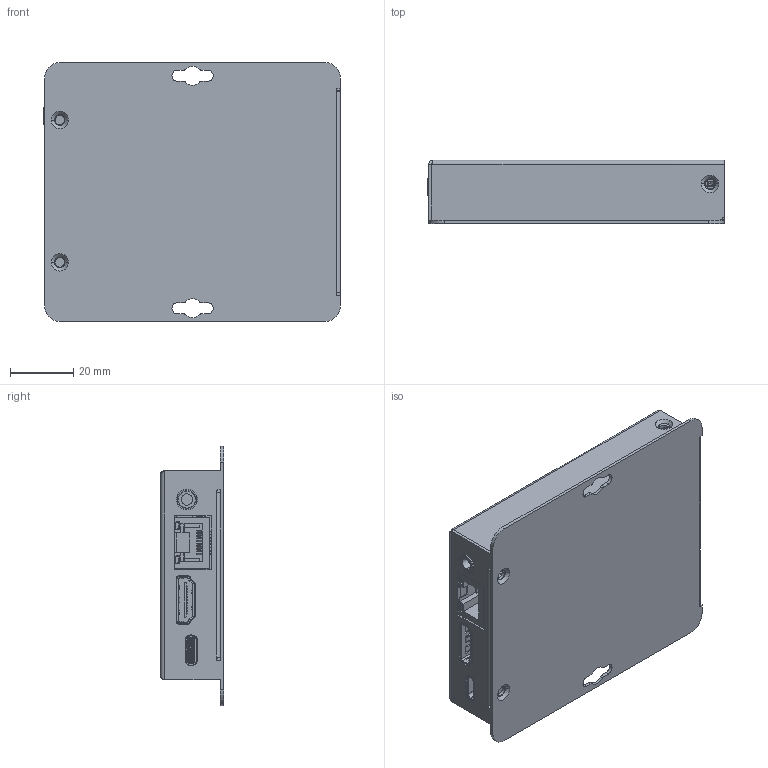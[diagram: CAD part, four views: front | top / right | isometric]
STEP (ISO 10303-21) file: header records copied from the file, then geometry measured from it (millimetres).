
FILE_DESCRIPTION((''),'2;1');
FILE_NAME('3328-PC0001_ASM','2020-02-25T11:18:02',('mayn'),(''),'CREO PARAMETRIC BY PTC INC, 2017380','CREO PARAMETRIC BY PTC INC, 2017380','');
FILE_SCHEMA(('AUTOMOTIVE_DESIGN { 1 0 10303 214 1 1 1 1 }'));
Products named in the file (1): 3328-PC0001_ASM
Bounding box: 93.85 x 20 x 82 mm (x, y, z)
Volume: 32899.5 mm3; surface area: 58562.3 mm2
Topology: 1 solids, 5 shells, 4065 faces, 11354 edges, 7367 vertices
Faces by surface type: plane 3095, cylinder 880, bspline 42, cone 30, torus 12, extrusion 6
Entity records: 149377 total; most frequent: CARTESIAN_POINT 26253, ORIENTED_EDGE 22676, DIRECTION 20469, EDGE_CURVE 11346, VECTOR 9331, LINE 9325, VERTEX_POINT 7367, AXIS2_PLACEMENT_3D 5569
